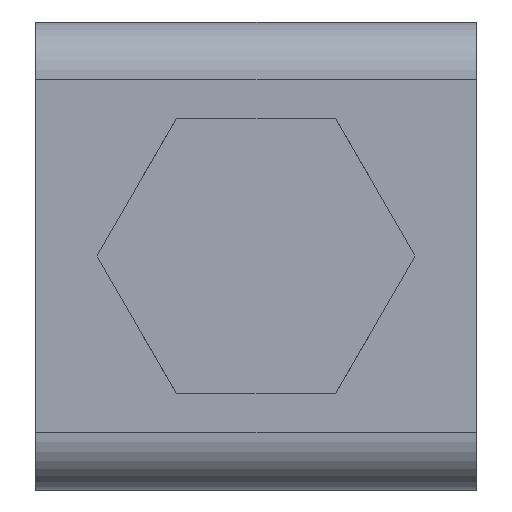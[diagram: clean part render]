
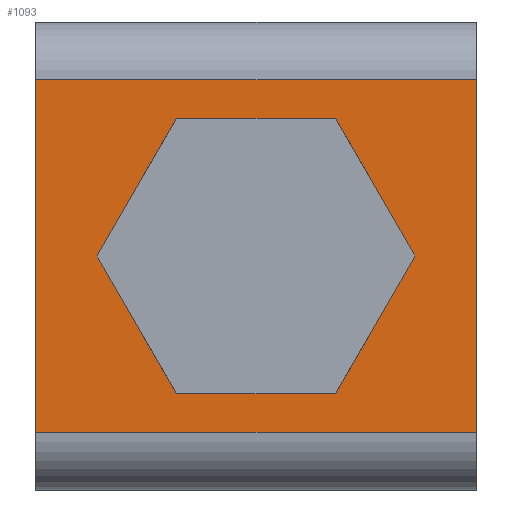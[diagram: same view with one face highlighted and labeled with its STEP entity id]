
A CAD part, front view. The second image highlights one B-rep face of the part: STEP entity #1093.
In plain terms, the highlighted planar face has unit normal (0, -1, 0) as drawn and (0, 1, 0) by its records, which use the part's own axes.
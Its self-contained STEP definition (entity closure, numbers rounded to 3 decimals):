
#30 = VECTOR ( 'NONE', #227, 1000. ) ;
#52 = EDGE_CURVE ( 'NONE', #265, #271, #224, .T. ) ;
#118 = EDGE_CURVE ( 'NONE', #974, #975, #2205, .T. ) ;
#130 = EDGE_CURVE ( 'NONE', #237, #265, #940, .T. ) ;
#136 = EDGE_CURVE ( 'NONE', #237, #973, #1852, .T. ) ;
#139 = EDGE_CURVE ( 'NONE', #973, #271, #1856, .T. ) ;
#146 = EDGE_CURVE ( 'NONE', #975, #974, #2320, .T. ) ;
#224 = LINE ( 'NONE', #226, #30 ) ;
#226 = CARTESIAN_POINT ( 'NONE',  ( -8.5, 5., -8. ) ) ;
#227 = DIRECTION ( 'NONE',  ( 1., 0., 0. ) ) ;
#237 = VERTEX_POINT ( 'NONE', #1703 ) ;
#265 = VERTEX_POINT ( 'NONE', #1733 ) ;
#271 = VERTEX_POINT ( 'NONE', #1739 ) ;
#401 = EDGE_LOOP ( 'NONE', ( #1630, #1631, #1632, #1633 ) ) ;
#430 = EDGE_LOOP ( 'NONE', ( #2359, #2360 ) ) ;
#504 = FACE_BOUND ( 'NONE', #430, .T. ) ;
#505 = FACE_OUTER_BOUND ( 'NONE', #401, .T. ) ;
#506 = PLANE ( 'NONE',  #2161 ) ;
#508 = CARTESIAN_POINT ( 'NONE',  ( -8.5, 5., 8. ) ) ;
#509 = DIRECTION ( 'NONE',  ( 0., 1., 0. ) ) ;
#510 = DIRECTION ( 'NONE',  ( 0., 0., 1. ) ) ;
#906 = CARTESIAN_POINT ( 'NONE',  ( 0., 5., 0. ) ) ;
#907 = DIRECTION ( 'NONE',  ( 0., 1., 0. ) ) ;
#908 = DIRECTION ( 'NONE',  ( 0., 0., 1. ) ) ;
#926 = CARTESIAN_POINT ( 'NONE',  ( -6.4, 5., 8. ) ) ;
#940 = LINE ( 'NONE', #926, #2297 ) ;
#944 = DIRECTION ( 'NONE',  ( 0., 0., -1. ) ) ;
#973 = VERTEX_POINT ( 'NONE', #1769 ) ;
#974 = VERTEX_POINT ( 'NONE', #1770 ) ;
#975 = VERTEX_POINT ( 'NONE', #1771 ) ;
#1093 = ADVANCED_FACE ( 'NONE', ( #504, #505 ), #506, .T. ) ;
#1630 = ORIENTED_EDGE ( 'NONE', *, *, #52, .F. ) ;
#1631 = ORIENTED_EDGE ( 'NONE', *, *, #130, .F. ) ;
#1632 = ORIENTED_EDGE ( 'NONE', *, *, #136, .T. ) ;
#1633 = ORIENTED_EDGE ( 'NONE', *, *, #139, .T. ) ;
#1703 = CARTESIAN_POINT ( 'NONE',  ( -6.4, 5., 8. ) ) ;
#1733 = CARTESIAN_POINT ( 'NONE',  ( -6.4, 5., -8. ) ) ;
#1739 = CARTESIAN_POINT ( 'NONE',  ( 6.4, 5., -8. ) ) ;
#1769 = CARTESIAN_POINT ( 'NONE',  ( 6.4, 5., 8. ) ) ;
#1770 = CARTESIAN_POINT ( 'NONE',  ( 0., 5., -3.25 ) ) ;
#1771 = CARTESIAN_POINT ( 'NONE',  ( 0., 5., 3.25 ) ) ;
#1852 = LINE ( 'NONE', #1854, #2306 ) ;
#1854 = CARTESIAN_POINT ( 'NONE',  ( -8.5, 5., 8. ) ) ;
#1855 = DIRECTION ( 'NONE',  ( 1., 0., 0. ) ) ;
#1856 = LINE ( 'NONE', #1857, #2301 ) ;
#1857 = CARTESIAN_POINT ( 'NONE',  ( 6.4, 5., 8. ) ) ;
#1867 = DIRECTION ( 'NONE',  ( 0., 0., -1. ) ) ;
#1889 = CARTESIAN_POINT ( 'NONE',  ( 0., 5., 0. ) ) ;
#1890 = DIRECTION ( 'NONE',  ( 0., 1., 0. ) ) ;
#1891 = DIRECTION ( 'NONE',  ( 0., 0., 1. ) ) ;
#2161 = AXIS2_PLACEMENT_3D ( 'NONE', #508, #509, #510 ) ;
#2205 = CIRCLE ( 'NONE', #2206, 3.25 ) ;
#2206 = AXIS2_PLACEMENT_3D ( 'NONE', #906, #907, #908 ) ;
#2297 = VECTOR ( 'NONE', #944, 1000. ) ;
#2301 = VECTOR ( 'NONE', #1867, 1000. ) ;
#2306 = VECTOR ( 'NONE', #1855, 1000. ) ;
#2320 = CIRCLE ( 'NONE', #2323, 3.25 ) ;
#2323 = AXIS2_PLACEMENT_3D ( 'NONE', #1889, #1890, #1891 ) ;
#2359 = ORIENTED_EDGE ( 'NONE', *, *, #146, .F. ) ;
#2360 = ORIENTED_EDGE ( 'NONE', *, *, #118, .F. ) ;
